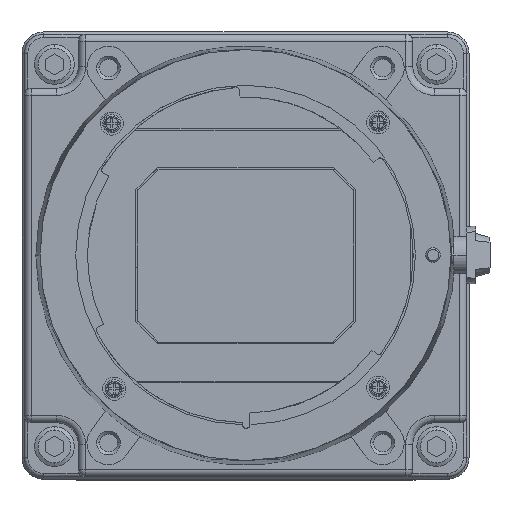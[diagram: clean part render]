
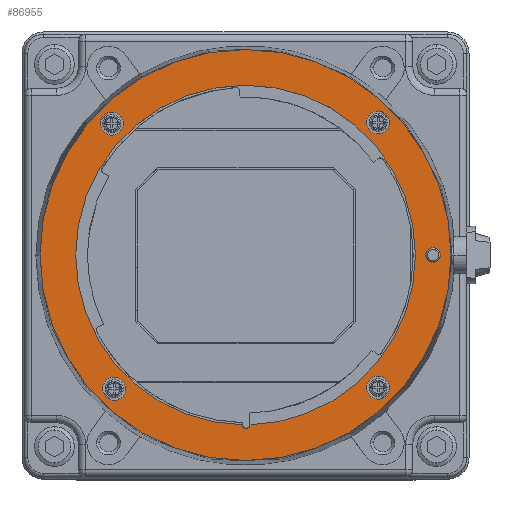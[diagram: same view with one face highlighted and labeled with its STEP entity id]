
A CAD part, top view. The second image highlights one B-rep face of the part: STEP entity #86955.
In plain terms, the highlighted planar face has unit normal (0, 0, 1).
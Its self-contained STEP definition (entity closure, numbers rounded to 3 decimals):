
#12480=CARTESIAN_POINT('',(0.,0.,3.19));
#12481=DIRECTION('',(0.,0.,-1.));
#12482=DIRECTION('',(0.,-1.,0.));
#12483=AXIS2_PLACEMENT_3D('',#12480,#12481,#12482);
#12485=CARTESIAN_POINT('',(0.,0.,3.19));
#12486=DIRECTION('',(0.,0.,-1.));
#12487=DIRECTION('',(0.,1.,0.));
#12488=AXIS2_PLACEMENT_3D('',#12485,#12486,#12487);
#12490=CARTESIAN_POINT('',(26.,0.,3.19));
#12491=DIRECTION('',(0.,0.,1.));
#12492=DIRECTION('',(1.,0.,0.));
#12493=AXIS2_PLACEMENT_3D('',#12490,#12491,#12492);
#12495=CARTESIAN_POINT('',(26.,0.,3.19));
#12496=DIRECTION('',(0.,0.,1.));
#12497=DIRECTION('',(-1.,0.,0.));
#12498=AXIS2_PLACEMENT_3D('',#12495,#12496,#12497);
#12500=CARTESIAN_POINT('',(18.385,18.385,3.19));
#12501=DIRECTION('',(0.,0.,1.));
#12502=DIRECTION('',(1.,0.,0.));
#12503=AXIS2_PLACEMENT_3D('',#12500,#12501,#12502);
#12505=CARTESIAN_POINT('',(18.385,18.385,3.19));
#12506=DIRECTION('',(0.,0.,1.));
#12507=DIRECTION('',(-1.,0.,0.));
#12508=AXIS2_PLACEMENT_3D('',#12505,#12506,#12507);
#12510=CARTESIAN_POINT('',(-18.545,18.224,3.19));
#12511=DIRECTION('',(0.,0.,1.));
#12512=DIRECTION('',(0.009,-1.,0.));
#12513=AXIS2_PLACEMENT_3D('',#12510,#12511,#12512);
#12515=CARTESIAN_POINT('',(-18.545,18.224,3.19));
#12516=DIRECTION('',(0.,0.,1.));
#12517=DIRECTION('',(-0.009,1.,0.));
#12518=AXIS2_PLACEMENT_3D('',#12515,#12516,#12517);
#12520=CARTESIAN_POINT('',(-18.224,-18.545,3.19));
#12521=DIRECTION('',(0.,0.,1.));
#12522=DIRECTION('',(1.,0.009,0.));
#12523=AXIS2_PLACEMENT_3D('',#12520,#12521,#12522);
#12525=CARTESIAN_POINT('',(-18.224,-18.545,3.19));
#12526=DIRECTION('',(0.,0.,1.));
#12527=DIRECTION('',(-1.,-0.009,0.));
#12528=AXIS2_PLACEMENT_3D('',#12525,#12526,#12527);
#12530=CARTESIAN_POINT('',(18.385,-18.385,3.19));
#12531=DIRECTION('',(0.,0.,1.));
#12532=DIRECTION('',(0.,1.,0.));
#12533=AXIS2_PLACEMENT_3D('',#12530,#12531,#12532);
#12535=CARTESIAN_POINT('',(18.385,-18.385,3.19));
#12536=DIRECTION('',(0.,0.,1.));
#12537=DIRECTION('',(0.,-1.,0.));
#12538=AXIS2_PLACEMENT_3D('',#12535,#12536,#12537);
#12540=CARTESIAN_POINT('',(0.,0.,3.19));
#12541=DIRECTION('',(0.,0.,1.));
#12542=DIRECTION('',(0.026,-1.,0.));
#12543=AXIS2_PLACEMENT_3D('',#12540,#12541,#12542);
#12545=CARTESIAN_POINT('',(0.,0.,3.19));
#12546=DIRECTION('',(0.,0.,1.));
#12547=DIRECTION('',(1.,0.,0.));
#12548=AXIS2_PLACEMENT_3D('',#12545,#12546,#12547);
#12550=CARTESIAN_POINT('',(0.,0.,3.19));
#12551=DIRECTION('',(0.,0.,1.));
#12552=DIRECTION('',(-1.,0.,0.));
#12553=AXIS2_PLACEMENT_3D('',#12550,#12551,#12552);
#12555=CARTESIAN_POINT('',(0.116,-23.55,3.19));
#12556=DIRECTION('',(0.,0.,1.));
#12557=DIRECTION('',(-1.,0.005,0.));
#12558=AXIS2_PLACEMENT_3D('',#12555,#12556,#12557);
#69661=CARTESIAN_POINT('',(0.,-28.5,3.19));
#69662=VERTEX_POINT('',#69661);
#69663=CARTESIAN_POINT('',(0.,28.5,3.19));
#69664=VERTEX_POINT('',#69663);
#69665=CARTESIAN_POINT('',(27.,0.,3.19));
#69666=CARTESIAN_POINT('',(25.,0.,3.19));
#69667=VERTEX_POINT('',#69665);
#69668=VERTEX_POINT('',#69666);
#69669=CARTESIAN_POINT('',(19.985,18.385,3.19));
#69670=CARTESIAN_POINT('',(16.785,18.385,3.19));
#69671=VERTEX_POINT('',#69669);
#69672=VERTEX_POINT('',#69670);
#69673=CARTESIAN_POINT('',(-18.531,16.624,3.19));
#69674=CARTESIAN_POINT('',(-18.558,19.824,3.19));
#69675=VERTEX_POINT('',#69673);
#69676=VERTEX_POINT('',#69674);
#69677=CARTESIAN_POINT('',(-16.624,-18.531,3.19));
#69678=CARTESIAN_POINT('',(-19.824,-18.558,3.19));
#69679=VERTEX_POINT('',#69677);
#69680=VERTEX_POINT('',#69678);
#69681=CARTESIAN_POINT('',(18.385,-16.785,3.19));
#69682=CARTESIAN_POINT('',(18.385,-19.985,3.19));
#69683=VERTEX_POINT('',#69681);
#69684=VERTEX_POINT('',#69682);
#69685=CARTESIAN_POINT('',(0.616,-23.542,3.19));
#69686=CARTESIAN_POINT('',(23.55,0.,3.19));
#69687=VERTEX_POINT('',#69685);
#69688=VERTEX_POINT('',#69686);
#69689=CARTESIAN_POINT('',(-23.55,0.,3.19));
#69690=VERTEX_POINT('',#69689);
#69691=CARTESIAN_POINT('',(-0.384,-23.547,3.19));
#69692=VERTEX_POINT('',#69691);
#86906=CARTESIAN_POINT('',(0.,0.,3.19));
#86907=DIRECTION('',(0.,0.,1.));
#86908=DIRECTION('',(1.,0.,0.));
#86909=AXIS2_PLACEMENT_3D('',#86906,#86907,#86908);
#86910=PLANE('',#86909);
#86911=ORIENTED_EDGE('',*,*,#86898,.T.);
#86912=ORIENTED_EDGE('',*,*,#86886,.T.);
#86913=EDGE_LOOP('',(#86911,#86912));
#86914=FACE_OUTER_BOUND('',#86913,.F.);
#86916=ORIENTED_EDGE('',*,*,#86915,.T.);
#86918=ORIENTED_EDGE('',*,*,#86917,.T.);
#86919=EDGE_LOOP('',(#86916,#86918));
#86920=FACE_BOUND('',#86919,.F.);
#86922=ORIENTED_EDGE('',*,*,#86921,.T.);
#86924=ORIENTED_EDGE('',*,*,#86923,.T.);
#86925=EDGE_LOOP('',(#86922,#86924));
#86926=FACE_BOUND('',#86925,.F.);
#86928=ORIENTED_EDGE('',*,*,#86927,.T.);
#86930=ORIENTED_EDGE('',*,*,#86929,.T.);
#86931=EDGE_LOOP('',(#86928,#86930));
#86932=FACE_BOUND('',#86931,.F.);
#86934=ORIENTED_EDGE('',*,*,#86933,.T.);
#86936=ORIENTED_EDGE('',*,*,#86935,.T.);
#86937=EDGE_LOOP('',(#86934,#86936));
#86938=FACE_BOUND('',#86937,.F.);
#86940=ORIENTED_EDGE('',*,*,#86939,.T.);
#86942=ORIENTED_EDGE('',*,*,#86941,.T.);
#86943=EDGE_LOOP('',(#86940,#86942));
#86944=FACE_BOUND('',#86943,.F.);
#86946=ORIENTED_EDGE('',*,*,#86945,.T.);
#86948=ORIENTED_EDGE('',*,*,#86947,.T.);
#86950=ORIENTED_EDGE('',*,*,#86949,.T.);
#86952=ORIENTED_EDGE('',*,*,#86951,.T.);
#86953=EDGE_LOOP('',(#86946,#86948,#86950,#86952));
#86954=FACE_BOUND('',#86953,.F.);
#86955=ADVANCED_FACE('',(#86914,#86920,#86926,#86932,#86938,#86944,#86954),
#86910,.T.);
#12484=CIRCLE('',#12483,28.5);
#12489=CIRCLE('',#12488,28.5);
#12494=CIRCLE('',#12493,1.);
#12499=CIRCLE('',#12498,1.);
#12504=CIRCLE('',#12503,1.6);
#12509=CIRCLE('',#12508,1.6);
#12514=CIRCLE('',#12513,1.6);
#12519=CIRCLE('',#12518,1.6);
#12524=CIRCLE('',#12523,1.6);
#12529=CIRCLE('',#12528,1.6);
#12534=CIRCLE('',#12533,1.6);
#12539=CIRCLE('',#12538,1.6);
#12544=CIRCLE('',#12543,23.55);
#12549=CIRCLE('',#12548,23.55);
#12554=CIRCLE('',#12553,23.55);
#12559=CIRCLE('',#12558,0.5);
#86886=EDGE_CURVE('',#69664,#69662,#12489,.T.);
#86898=EDGE_CURVE('',#69662,#69664,#12484,.T.);
#86915=EDGE_CURVE('',#69667,#69668,#12494,.T.);
#86917=EDGE_CURVE('',#69668,#69667,#12499,.T.);
#86921=EDGE_CURVE('',#69671,#69672,#12504,.T.);
#86923=EDGE_CURVE('',#69672,#69671,#12509,.T.);
#86927=EDGE_CURVE('',#69675,#69676,#12514,.T.);
#86929=EDGE_CURVE('',#69676,#69675,#12519,.T.);
#86933=EDGE_CURVE('',#69679,#69680,#12524,.T.);
#86935=EDGE_CURVE('',#69680,#69679,#12529,.T.);
#86939=EDGE_CURVE('',#69683,#69684,#12534,.T.);
#86941=EDGE_CURVE('',#69684,#69683,#12539,.T.);
#86945=EDGE_CURVE('',#69687,#69688,#12544,.T.);
#86947=EDGE_CURVE('',#69688,#69690,#12549,.T.);
#86949=EDGE_CURVE('',#69690,#69692,#12554,.T.);
#86951=EDGE_CURVE('',#69692,#69687,#12559,.T.);
